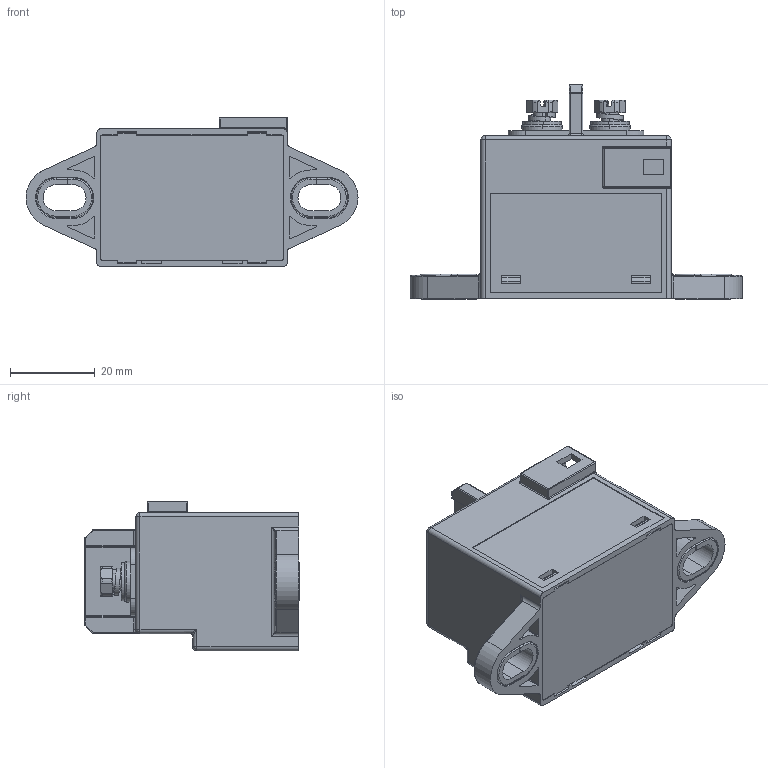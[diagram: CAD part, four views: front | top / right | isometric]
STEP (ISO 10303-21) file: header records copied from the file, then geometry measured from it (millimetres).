
FILE_DESCRIPTION (( 'STEP AP214' ), '1' );
FILE_NAME ('NDZ3T-40.STEP', '2019-02-22T00:56:33', ( '' ), ( '' ), 'SwSTEP 2.0', 'SolidWorks 2011', '' );
FILE_SCHEMA (( 'AUTOMOTIVE_DESIGN' ));
Length unit declared in the file: millimetre
Products named in the file (13): 8LD.564.0052_Default; GB／T97．1-2002平垫圈A级4×0.8; 8LD.005.1198; 5LD.850.1043; GB／T93-1987标准型弹性垫圈(零件)4×2.2; NDZ3T-40; 8LD.742.1520; 5LD.551.1312; 5LD.004.1008_Default; 5LD.558.1376; 8LD.005.1199; M4X8; 8LD.144.1002
Assembly tree (15 placements, depth 5):
  NDZ3T-40
    8LD.005.1199
    8LD.144.1002  x2
    5LD.558.1376
      5LD.551.1312
        5LD.004.1008_Default
          8LD.742.1520
          8LD.564.0052_Default  x2
    5LD.850.1043  x2
      M4X8
      GB／T93-1987标准型弹性垫圈(零件)4×2.2
      GB／T97．1-2002平垫圈A级4×0.8
    8LD.005.1198
Bounding box: 78.2 x 50.5 x 35.3 mm (x, y, z)
Volume: 19473.6 mm3; surface area: 26188.9 mm2
Topology: 13 solids, 13 shells, 1105 faces, 2847 edges, 1774 vertices
Faces by surface type: plane 619, cylinder 346, bspline 122, cone 18
Entity records: 38707 total; most frequent: CARTESIAN_POINT 7756, ORIENTED_EDGE 4478, DIRECTION 4215, EDGE_CURVE 2239, VECTOR 1501, LINE 1501, VERTEX_POINT 1403, AXIS2_PLACEMENT_3D 1357
